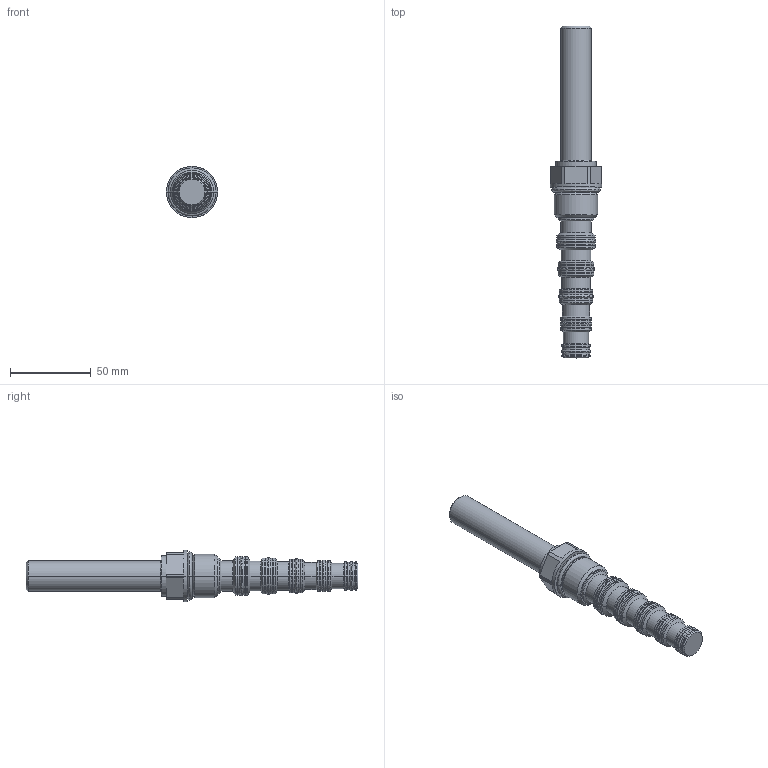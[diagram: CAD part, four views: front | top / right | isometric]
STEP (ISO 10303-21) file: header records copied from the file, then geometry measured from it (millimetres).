
FILE_DESCRIPTION((''),'2;1');
FILE_NAME('5048000_SW0001','2009-03-02T',('JCS'),(''),'PRO/ENGINEER BY PARAMETRIC TECHNOLOGY CORPORATION, 2008010','PRO/ENGINEER BY PARAMETRIC TECHNOLOGY CORPORATION, 2008010','');
FILE_SCHEMA(('CONFIG_CONTROL_DESIGN'));
Length unit declared in the file: inch
Products named in the file (1): 5048000_SW0001
Bounding box: 31.75 x 206.07 x 31.75 mm (x, y, z)
Volume: 70422.7 mm3; surface area: 19901.9 mm2
Topology: 5 solids, 5 shells, 276 faces, 562 edges, 312 vertices
Faces by surface type: cylinder 94, revolution 48, torus 48, cone 48, plane 38
Entity records: 7882 total; most frequent: CARTESIAN_POINT 1910, DIRECTION 1366, ORIENTED_EDGE 1124, AXIS2_PLACEMENT_3D 576, EDGE_CURVE 562, CIRCLE 348, VERTEX_POINT 312, EDGE_LOOP 300
